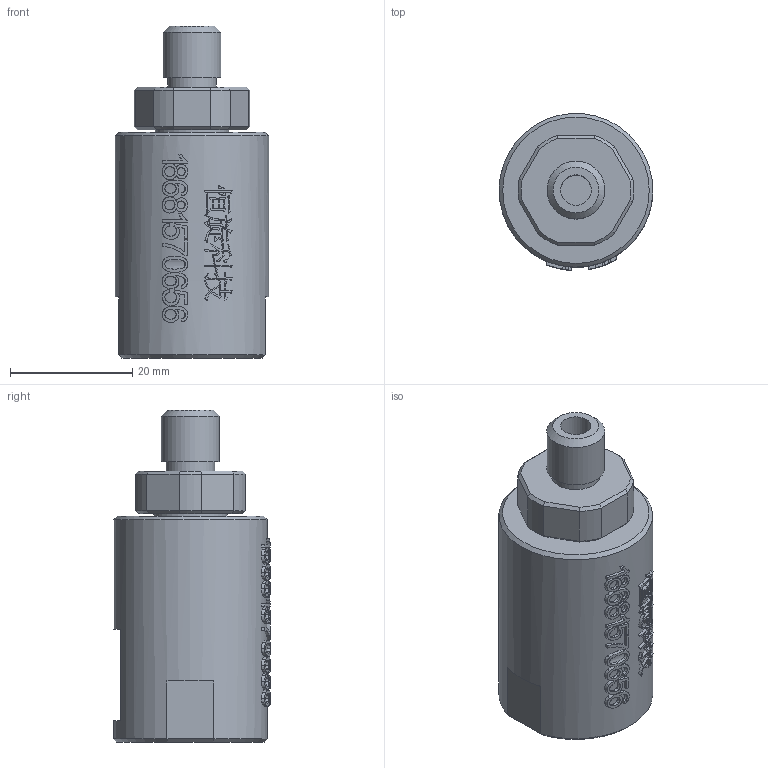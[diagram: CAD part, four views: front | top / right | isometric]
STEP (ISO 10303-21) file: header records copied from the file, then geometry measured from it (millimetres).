
FILE_DESCRIPTION(/* description */ (''),/* implementation_level */ '2;1');
FILE_NAME(/* name */ 'HQY0101.stp',/* time_stamp */ '2025-09-27T17:35:43+08:00',/* author */ (''),/* organization */ (''),/* preprocessor_version */ 'ST-DEVELOPER v16.7',/* originating_system */ 'SIEMENS PLM Software NX 12.0',/* authorisation */ '');
FILE_SCHEMA (('AUTOMOTIVE_DESIGN { 1 0 10303 214 3 1 1 1 }'));
Length unit declared in the file: millimetre
Products named in the file (1): Admi2B88A5628834
Bounding box: 25.2 x 25.65 x 54.4 mm (x, y, z)
Volume: 19478.5 mm3; surface area: 6039 mm2
Topology: 1 solids, 1 shells, 595 faces, 1619 edges, 1069 vertices
Faces by surface type: extrusion 311, plane 218, bspline 26, cylinder 24, cone 16
Full cylindrical faces by diameter (mm): 5 x1, 6 x1, 8 x1, 8.5 x1, 9.5 x1, 12 x1, 25.2 x1
Entity records: 24220 total; most frequent: CARTESIAN_POINT 11652, ORIENTED_EDGE 3214, EDGE_CURVE 1607, B_SPLINE_CURVE_WITH_KNOTS 1588, DIRECTION 1339, VERTEX_POINT 1066, EDGE_LOOP 649, ADVANCED_FACE 595
